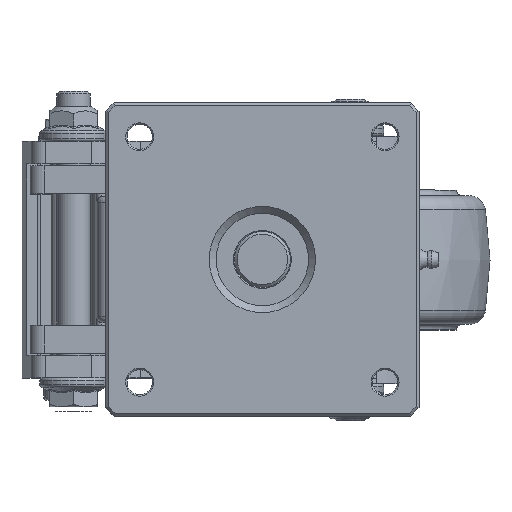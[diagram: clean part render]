
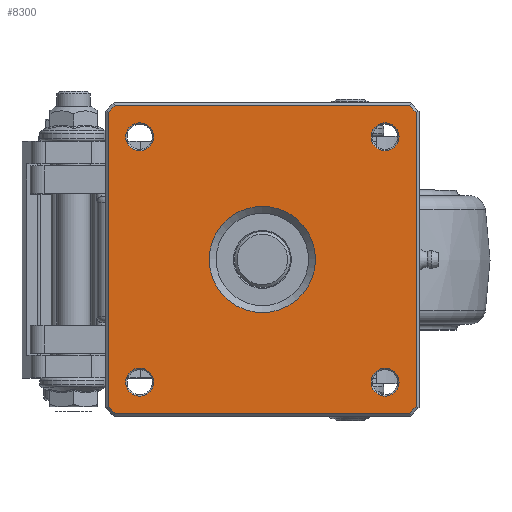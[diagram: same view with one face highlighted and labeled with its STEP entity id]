
A CAD part, top view. The second image highlights one B-rep face of the part: STEP entity #8300.
In plain terms, the highlighted planar face has unit normal (0, 0, 1).
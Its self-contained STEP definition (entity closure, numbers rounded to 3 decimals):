
#417=FACE_BOUND('',#1877,.T.);
#418=FACE_BOUND('',#1878,.T.);
#419=FACE_BOUND('',#1879,.T.);
#420=FACE_BOUND('',#1880,.T.);
#421=FACE_BOUND('',#1881,.T.);
#632=PLANE('',#9126);
#1374=FACE_OUTER_BOUND('',#1876,.T.);
#1876=EDGE_LOOP('',(#7594,#7595,#7596,#7597,#7598,#7599,#7600,#7601));
#1877=EDGE_LOOP('',(#7602));
#1878=EDGE_LOOP('',(#7603));
#1879=EDGE_LOOP('',(#7604));
#1880=EDGE_LOOP('',(#7605));
#1881=EDGE_LOOP('',(#7606));
#2448=LINE('',#15888,#3036);
#2449=LINE('',#15890,#3037);
#2450=LINE('',#15892,#3038);
#2451=LINE('',#15894,#3039);
#2452=LINE('',#15896,#3040);
#2453=LINE('',#15898,#3041);
#2454=LINE('',#15900,#3042);
#2455=LINE('',#15901,#3043);
#3036=VECTOR('',#11232,10.);
#3037=VECTOR('',#11233,10.);
#3038=VECTOR('',#11234,10.);
#3039=VECTOR('',#11235,10.);
#3040=VECTOR('',#11236,10.);
#3041=VECTOR('',#11237,10.);
#3042=VECTOR('',#11238,10.);
#3043=VECTOR('',#11239,10.);
#3445=CIRCLE('',#9123,5.);
#3447=CIRCLE('',#9127,5.);
#3448=CIRCLE('',#9128,5.);
#3449=CIRCLE('',#9129,19.);
#3450=CIRCLE('',#9130,5.);
#4164=VERTEX_POINT('',#15878);
#4166=VERTEX_POINT('',#15886);
#4167=VERTEX_POINT('',#15887);
#4168=VERTEX_POINT('',#15889);
#4169=VERTEX_POINT('',#15891);
#4170=VERTEX_POINT('',#15893);
#4171=VERTEX_POINT('',#15895);
#4172=VERTEX_POINT('',#15897);
#4173=VERTEX_POINT('',#15899);
#4174=VERTEX_POINT('',#15902);
#4175=VERTEX_POINT('',#15904);
#4176=VERTEX_POINT('',#15906);
#4177=VERTEX_POINT('',#15908);
#5312=EDGE_CURVE('',#4164,#4164,#3445,.T.);
#5315=EDGE_CURVE('',#4166,#4167,#2448,.T.);
#5316=EDGE_CURVE('',#4168,#4166,#2449,.T.);
#5317=EDGE_CURVE('',#4169,#4168,#2450,.T.);
#5318=EDGE_CURVE('',#4170,#4169,#2451,.T.);
#5319=EDGE_CURVE('',#4171,#4170,#2452,.T.);
#5320=EDGE_CURVE('',#4172,#4171,#2453,.T.);
#5321=EDGE_CURVE('',#4173,#4172,#2454,.T.);
#5322=EDGE_CURVE('',#4167,#4173,#2455,.T.);
#5323=EDGE_CURVE('',#4174,#4174,#3447,.T.);
#5324=EDGE_CURVE('',#4175,#4175,#3448,.T.);
#5325=EDGE_CURVE('',#4176,#4176,#3449,.T.);
#5326=EDGE_CURVE('',#4177,#4177,#3450,.T.);
#7594=ORIENTED_EDGE('',*,*,#5315,.F.);
#7595=ORIENTED_EDGE('',*,*,#5316,.F.);
#7596=ORIENTED_EDGE('',*,*,#5317,.F.);
#7597=ORIENTED_EDGE('',*,*,#5318,.F.);
#7598=ORIENTED_EDGE('',*,*,#5319,.F.);
#7599=ORIENTED_EDGE('',*,*,#5320,.F.);
#7600=ORIENTED_EDGE('',*,*,#5321,.F.);
#7601=ORIENTED_EDGE('',*,*,#5322,.F.);
#7602=ORIENTED_EDGE('',*,*,#5323,.F.);
#7603=ORIENTED_EDGE('',*,*,#5324,.F.);
#7604=ORIENTED_EDGE('',*,*,#5325,.T.);
#7605=ORIENTED_EDGE('',*,*,#5326,.F.);
#7606=ORIENTED_EDGE('',*,*,#5312,.F.);
#8300=ADVANCED_FACE('',(#1374,#417,#418,#419,#420,#421),#632,.T.);
#9123=AXIS2_PLACEMENT_3D('',#15880,#11223,#11224);
#9126=AXIS2_PLACEMENT_3D('',#15885,#11230,#11231);
#9127=AXIS2_PLACEMENT_3D('',#15903,#11240,#11241);
#9128=AXIS2_PLACEMENT_3D('',#15905,#11242,#11243);
#9129=AXIS2_PLACEMENT_3D('',#15907,#11244,#11245);
#9130=AXIS2_PLACEMENT_3D('',#15909,#11246,#11247);
#11223=DIRECTION('center_axis',(0.,0.,1.));
#11224=DIRECTION('ref_axis',(-1.,0.,0.));
#11230=DIRECTION('center_axis',(0.,0.,1.));
#11231=DIRECTION('ref_axis',(1.,0.,0.));
#11232=DIRECTION('',(1.,0.,0.));
#11233=DIRECTION('',(0.707,0.707,0.));
#11234=DIRECTION('',(0.,1.,0.));
#11235=DIRECTION('',(-0.707,0.707,0.));
#11236=DIRECTION('',(-1.,0.,0.));
#11237=DIRECTION('',(-0.707,-0.707,0.));
#11238=DIRECTION('',(0.,-1.,0.));
#11239=DIRECTION('',(0.707,-0.707,0.));
#11240=DIRECTION('center_axis',(0.,0.,1.));
#11241=DIRECTION('ref_axis',(-1.,0.,0.));
#11242=DIRECTION('center_axis',(0.,0.,1.));
#11243=DIRECTION('ref_axis',(-1.,0.,0.));
#11244=DIRECTION('center_axis',(0.,0.,-1.));
#11245=DIRECTION('ref_axis',(-1.,0.,0.));
#11246=DIRECTION('center_axis',(0.,0.,1.));
#11247=DIRECTION('ref_axis',(-1.,0.,0.));
#15878=CARTESIAN_POINT('',(48.841,-43.841,0.));
#15880=CARTESIAN_POINT('Origin',(43.841,-43.841,0.));
#15885=CARTESIAN_POINT('Origin',(0.,0.,0.));
#15886=CARTESIAN_POINT('',(-52.586,55.,0.));
#15887=CARTESIAN_POINT('',(52.586,55.,0.));
#15888=CARTESIAN_POINT('',(-26.5,55.,0.));
#15889=CARTESIAN_POINT('',(-55.,52.586,0.));
#15890=CARTESIAN_POINT('',(-54.543,53.043,0.));
#15891=CARTESIAN_POINT('',(-55.,-52.586,0.));
#15892=CARTESIAN_POINT('',(-55.,-26.5,0.));
#15893=CARTESIAN_POINT('',(-52.586,-55.,0.));
#15894=CARTESIAN_POINT('',(-53.043,-54.543,0.));
#15895=CARTESIAN_POINT('',(52.586,-55.,0.));
#15896=CARTESIAN_POINT('',(26.5,-55.,0.));
#15897=CARTESIAN_POINT('',(55.,-52.586,0.));
#15898=CARTESIAN_POINT('',(54.543,-53.043,0.));
#15899=CARTESIAN_POINT('',(55.,52.586,0.));
#15900=CARTESIAN_POINT('',(55.,26.5,0.));
#15901=CARTESIAN_POINT('',(53.043,54.543,0.));
#15902=CARTESIAN_POINT('',(48.841,43.841,0.));
#15903=CARTESIAN_POINT('Origin',(43.841,43.841,0.));
#15904=CARTESIAN_POINT('',(-38.841,-43.841,0.));
#15905=CARTESIAN_POINT('Origin',(-43.841,-43.841,0.));
#15906=CARTESIAN_POINT('',(19.,0.,0.));
#15907=CARTESIAN_POINT('Origin',(0.,0.,0.));
#15908=CARTESIAN_POINT('',(-38.841,43.841,0.));
#15909=CARTESIAN_POINT('Origin',(-43.841,43.841,0.));
